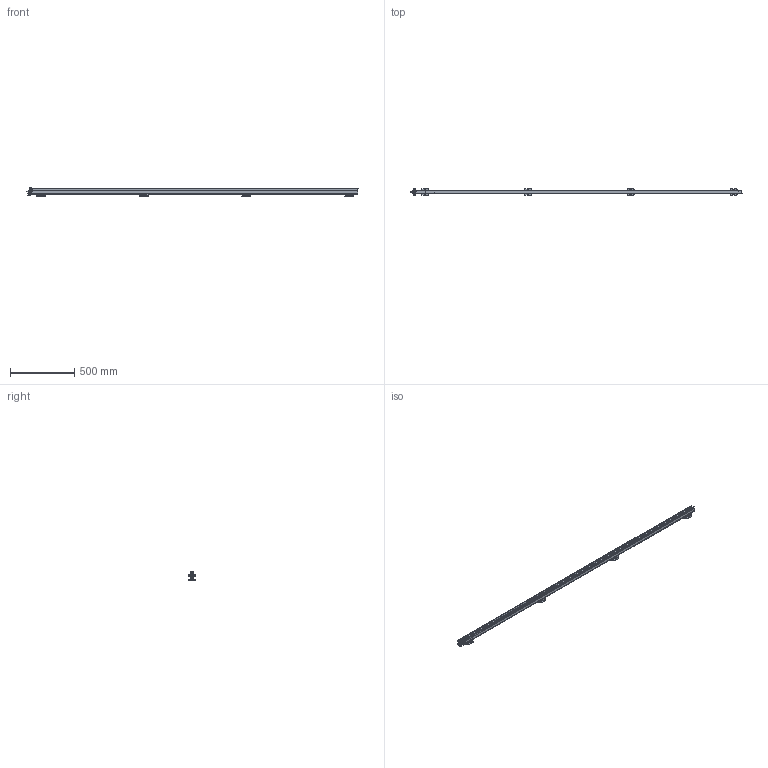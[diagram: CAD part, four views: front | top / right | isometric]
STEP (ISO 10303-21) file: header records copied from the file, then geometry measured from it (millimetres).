
FILE_DESCRIPTION(/* description */ (''),/* implementation_level */ '2;1');
FILE_NAME(/* name */ 'PERFORMAXEASYEX_2370_3D_GB',/* time_stamp */ '2017-05-31T09:53:48+02:00',/* author */ (''),/* organization */ (''),/* preprocessor_version */ 'ST-DEVELOPER v15.7',/* originating_system */ 'HiCAD 2015 2002.1 Build 408',/* authorisation */ '');
FILE_SCHEMA (('AUTOMOTIVE_DESIGN { 1 0 10303 214 1 1 1 1 }'));
Length unit declared in the file: millimetre
Products named in the file (75): Root; -_Performax (IQ) Easy Ex 2370 eff (Speed); -_LED; -_PROFILE; -_POTTING; -_CAP DE; -_CAP CE; -_CABLE; -_PIN; -_COVER; 4532000100_Mounting bracket bars; -_Side piece; -_Slide piece; -_Bracket small; DIN 13-M3; DIN 76-M3; 2047507823_PE connection; DIN 916-M4x20-45H_Set screws; GEWINDE; ISO 8738-4-160 HV_Washers for studs; ISO 4032-M4-10_Hexagon nuts; DIN 127-A 4-FSt_Washers; 2047493713_Cable exits; -_Exit K; -_Clip; -_Gland body; -_Exit S; -_Exit Q; -_Washer ø20mm, 5mm thick for corr. conduit (exit
 Q); -_Exit I; -_Exit U; -_Exit A; Thread_2
Assembly tree (74 placements, depth 5):
  Root
    -_Performax (IQ) Easy Ex 2370 eff (Speed)
      -_LED
      -_PROFILE
      -_POTTING
      -_CAP DE
      -_CAP CE
      -_CABLE
      -_PIN
      -_PIN
      -_COVER
      4532000100_Mounting bracket bars
        -_Side piece
        -_Side piece
        -_Slide piece
        -_Bracket small
          DIN 13-M3
          DIN 13-M3
          DIN 76-M3
          DIN 76-M3
      4532000100_Mounting bracket bars
        -_Side piece
        -_Side piece
        -_Slide piece
        -_Bracket small
          DIN 13-M3
          DIN 13-M3
          DIN 76-M3
          DIN 76-M3
      4532000100_Mounting bracket bars
        -_Side piece
        -_Side piece
        -_Slide piece
        -_Bracket small
          DIN 13-M3
          DIN 13-M3
          DIN 76-M3
          DIN 76-M3
      4532000100_Mounting bracket bars
        -_Side piece
        -_Side piece
        -_Slide piece
        -_Bracket small
          DIN 13-M3
          DIN 13-M3
          DIN 76-M3
          DIN 76-M3
      2047507823_PE connection
        DIN 916-M4x20-45H_Set screws
          GEWINDE
        ISO 8738-4-160 HV_Washers for studs
        ISO 4032-M4-10_Hexagon nuts
          GEWINDE
        DIN 127-A 4-FSt_Washers
        ISO 4032-M4-10_Hexagon nuts
          GEWINDE
      2047493713_Cable exits
        -_Exit K
          -_Clip
          -_Gland body
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Bounding box: 2592.4 x 58.79 x 68.9 mm (x, y, z)
Volume: 3131315.9 mm3; surface area: 886386.5 mm2
Topology: 63 solids, 75 shells, 3239 faces, 8266 edges, 4990 vertices
Faces by surface type: plane 1391, cylinder 1323, torus 177, sphere 165, bspline 128, cone 55
Full cylindrical faces by diameter (mm): 2.387 x16, 3 x32, 3.141 x4, 4 x5, 4.3 x1, 5.4 x2, 5.5 x20, 8 x2, 11.3 x4, 12.5 x4, 13 x1, 14.6 x5, 15.1 x5, 18.4 x4, 20 x7, 20.2 x4
Entity records: 176187 total; most frequent: CARTESIAN_POINT 35942, DIRECTION 16546, PRESENTATION_STYLE_ASSIGNMENT 15725, OVER_RIDING_STYLED_ITEM 15663, DRAUGHTING_PRE_DEFINED_CURVE_FONT 15640, CURVE_STYLE 15640, ORIENTED_EDGE 15640, EDGE_CURVE 7820
